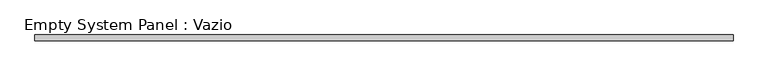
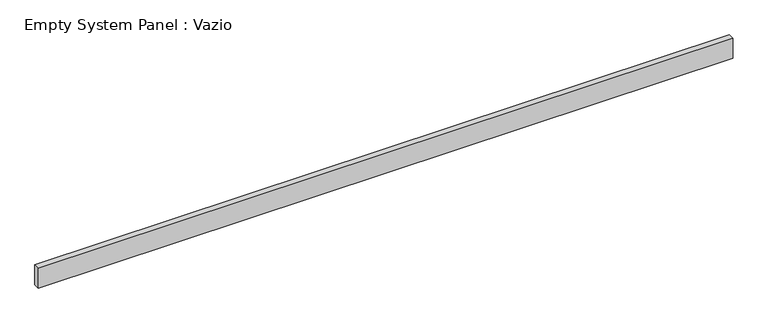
"""IFC4 building model written with IfcOpenShell, lengths in millimetres: plate geometry, Empty System Panel : Vazio."""

from ifc_helpers import new_model, si_unit, origin, origin_with_axes, place, context, project, spatial, polyline, outline, extrude, source, transform, mapped, element, save


def empty_system_panel_vazio_bc36503b(model_context):
    return source(origin(), model_context, "Body", "SweptSolid", [
        extrude(outline(polyline([(5749.938529, 50.0), (-5749.938529, 50.0), (-5749.938529, 150.0), (5749.938529, 150.0), (5749.938529, 50.0)])), origin_with_axes(), (0.0, 0.0, 1.0), 343.9164384),
    ])


if __name__ == "__main__":
    model = new_model("IFC4")
    model_context = context("Model", 3, world=origin())
    ifc_project = project(units=[si_unit("LENGTHUNIT", "METRE", prefix="MILLI")], contexts=[model_context])
    site = spatial("IfcSite", under=ifc_project)
    building = spatial("IfcBuilding", under=site)
    placement = place(None, origin())
    empty_system_panel_vazio_shape = empty_system_panel_vazio_bc36503b(model_context)
    element("IfcPlate", 1, ObjectType="Empty System Panel : Vazio", at=placement, inside=building, context=model_context, shape_type="MappedRepresentation", body=[
        mapped(empty_system_panel_vazio_shape, transform((0.0, 0.0, 0.0), x_axis=(1.0, 0.0, 0.0), y_axis=(0.0, 1.0, 0.0), z_axis=(0.0, 0.0, 1.0))),
    ])
    save(model, "model.ifc")
